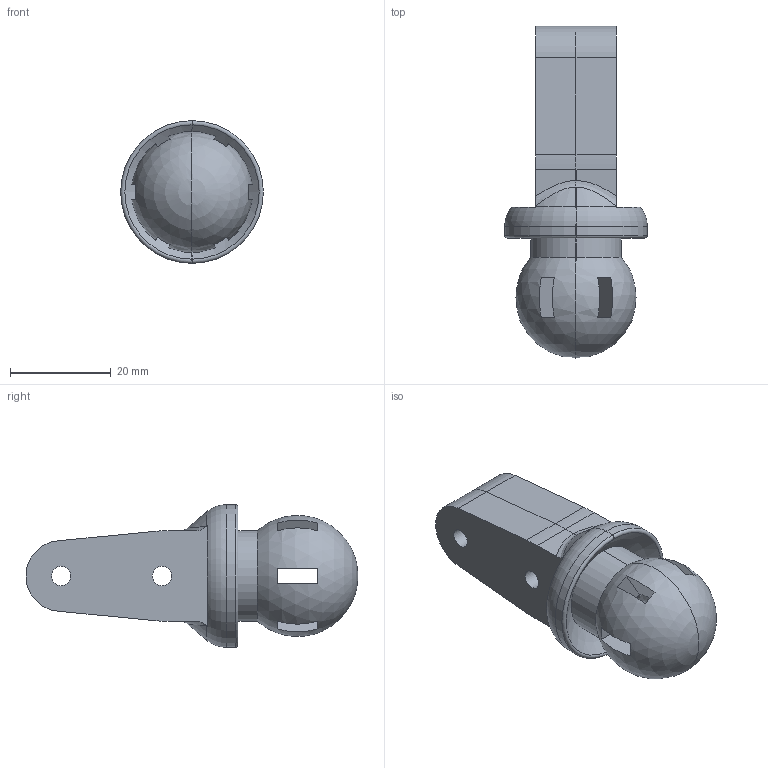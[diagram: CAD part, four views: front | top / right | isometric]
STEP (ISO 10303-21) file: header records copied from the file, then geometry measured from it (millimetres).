
FILE_DESCRIPTION(/* description */ ('CAx-IF Rec.Pracs.---Representation and Presentation of Product Manufacturing Information (PMI)---4.0---2014-10-13','CAx-IF Rec.Pracs.---3D Tessellated Geometry---0.4---2014-09-14','2;1'),/* implementation_level */ '2;1');
FILE_NAME(/* name */ 'qc1_p64_ball_mount',/* time_stamp */ '2026-07-26T03:27:27+03:00',/* author */ (''),/* organization */ (''),/* preprocessor_version */ 'ST-DEVELOPER v19.4',/* originating_system */ 'SIEMENS PLM Software NX2306.1700',/* authorisation */ $);
FILE_SCHEMA (('AP242_MANAGED_MODEL_BASED_3D_ENGINEERING_MIM_LF { 1 0 10303 442 3 1 4 }'));
Length unit declared in the file: millimetre
Products named in the file (1): qc1_p64_ball_mount
Bounding box: 28.3 x 65.83 x 28.3 mm (x, y, z)
Volume: 17866.7 mm3; surface area: 8945 mm2
Topology: 2 solids, 2 shells, 70 faces, 206 edges, 136 vertices
Faces by surface type: plane 38, cylinder 14, sphere 6, bspline 4, torus 4, cone 4
Full cylindrical faces by diameter (mm): 3.8 x4
Entity records: 2890 total; most frequent: CARTESIAN_POINT 515, DIRECTION 408, ORIENTED_EDGE 380, EDGE_CURVE 190, AXIS2_PLACEMENT_3D 171, VERTEX_POINT 130, CIRCLE 104, EDGE_LOOP 96
